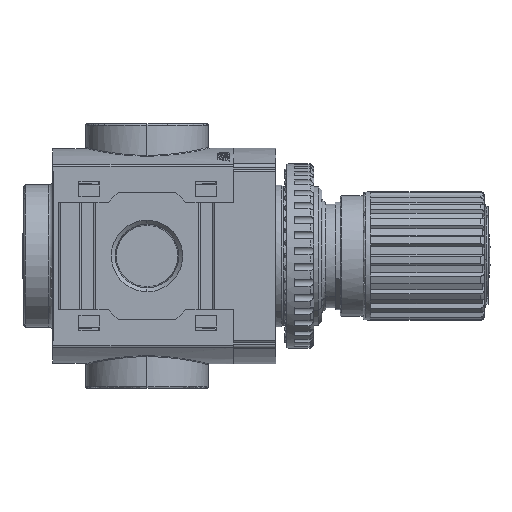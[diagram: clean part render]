
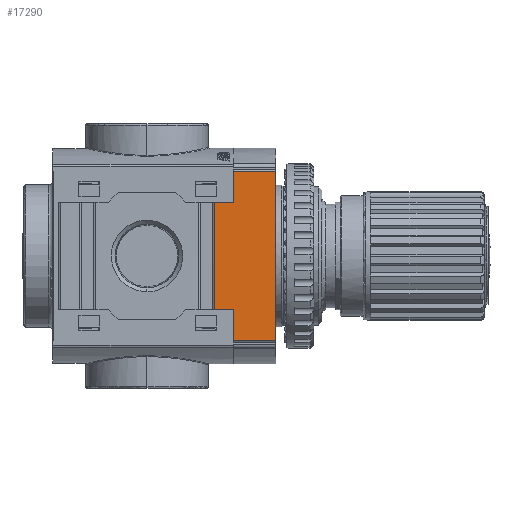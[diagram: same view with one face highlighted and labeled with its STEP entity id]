
A CAD part, left-side view. The second image highlights one B-rep face of the part: STEP entity #17290.
In plain terms, the highlighted planar face has unit normal (-1, 0, 0).
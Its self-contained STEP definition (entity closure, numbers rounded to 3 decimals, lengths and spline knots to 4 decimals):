
#13308=LINE('',#62281,#15229);
#13349=LINE('',#62423,#15270);
#13374=LINE('',#62504,#15295);
#13375=LINE('',#62506,#15296);
#13405=LINE('',#62622,#15326);
#13406=LINE('',#62624,#15327);
#13407=LINE('',#62626,#15328);
#13408=LINE('',#62628,#15329);
#15229=VECTOR('',#44339,1.);
#15270=VECTOR('',#44414,1.);
#15295=VECTOR('',#44483,1.);
#15296=VECTOR('',#44486,1.);
#15326=VECTOR('',#44574,1.);
#15327=VECTOR('',#44577,1.);
#15328=VECTOR('',#44578,1.);
#15329=VECTOR('',#44579,1.);
#17290=ADVANCED_FACE('',(#19853),#18437,.T.);
#18437=PLANE('',#40985);
#19853=FACE_OUTER_BOUND('',#21747,.T.);
#21747=EDGE_LOOP('',(#26703,#26704,#26705,#26706,#26707,#26708,#26709,#26710));
#26703=ORIENTED_EDGE('',*,*,#35798,.T.);
#26704=ORIENTED_EDGE('',*,*,#35799,.T.);
#26705=ORIENTED_EDGE('',*,*,#35800,.T.);
#26706=ORIENTED_EDGE('',*,*,#35801,.F.);
#26707=ORIENTED_EDGE('',*,*,#35724,.T.);
#26708=ORIENTED_EDGE('',*,*,#35755,.T.);
#26709=ORIENTED_EDGE('',*,*,#35756,.T.);
#26710=ORIENTED_EDGE('',*,*,#35671,.T.);
#32312=VERTEX_POINT('',#62280);
#32313=VERTEX_POINT('',#62282);
#32348=VERTEX_POINT('',#62422);
#32349=VERTEX_POINT('',#62424);
#32356=VERTEX_POINT('',#62503);
#32365=VERTEX_POINT('',#62621);
#32366=VERTEX_POINT('',#62625);
#32367=VERTEX_POINT('',#62627);
#35671=EDGE_CURVE('',#32313,#32312,#13308,.T.);
#35724=EDGE_CURVE('',#32349,#32348,#13349,.T.);
#35755=EDGE_CURVE('',#32348,#32356,#13374,.T.);
#35756=EDGE_CURVE('',#32356,#32313,#13375,.T.);
#35798=EDGE_CURVE('',#32312,#32365,#13405,.T.);
#35799=EDGE_CURVE('',#32365,#32366,#13406,.T.);
#35800=EDGE_CURVE('',#32366,#32367,#13407,.T.);
#35801=EDGE_CURVE('',#32349,#32367,#13408,.T.);
#40985=AXIS2_PLACEMENT_3D('',#62629,#44580,#44581);
#44339=DIRECTION('',(0.,0.,-1.));
#44414=DIRECTION('',(0.,1.,0.));
#44483=DIRECTION('',(0.,0.,-1.));
#44486=DIRECTION('',(0.,1.,0.));
#44574=DIRECTION('',(0.,-1.,0.));
#44577=DIRECTION('',(0.,0.,-1.));
#44578=DIRECTION('',(0.,-1.,0.));
#44579=DIRECTION('',(0.,0.,-1.));
#44580=DIRECTION('',(-1.,0.,0.));
#44581=DIRECTION('',(0.,0.,1.));
#62280=CARTESIAN_POINT('',(-1.1024,0.6299,-0.5512));
#62281=CARTESIAN_POINT('',(-1.1024,0.6299,0.));
#62282=CARTESIAN_POINT('',(-1.1024,0.6299,0.5512));
#62422=CARTESIAN_POINT('',(-1.1024,0.4331,0.8661));
#62423=CARTESIAN_POINT('',(-1.1024,0.315,0.8661));
#62424=CARTESIAN_POINT('',(-1.1024,0.,0.8661));
#62503=CARTESIAN_POINT('',(-1.1024,0.4331,0.5512));
#62504=CARTESIAN_POINT('',(-1.1024,0.4331,0.));
#62506=CARTESIAN_POINT('',(-1.1024,0.315,0.5512));
#62621=CARTESIAN_POINT('',(-1.1024,0.4331,-0.5512));
#62622=CARTESIAN_POINT('',(-1.1024,0.315,-0.5512));
#62624=CARTESIAN_POINT('',(-1.1024,0.4331,0.));
#62625=CARTESIAN_POINT('',(-1.1024,0.4331,-0.8661));
#62626=CARTESIAN_POINT('',(-1.1024,0.2165,-0.8661));
#62627=CARTESIAN_POINT('',(-1.1024,0.,-0.8661));
#62628=CARTESIAN_POINT('',(-1.1024,0.,0.));
#62629=CARTESIAN_POINT('',(-1.1024,0.,-0.8661));
